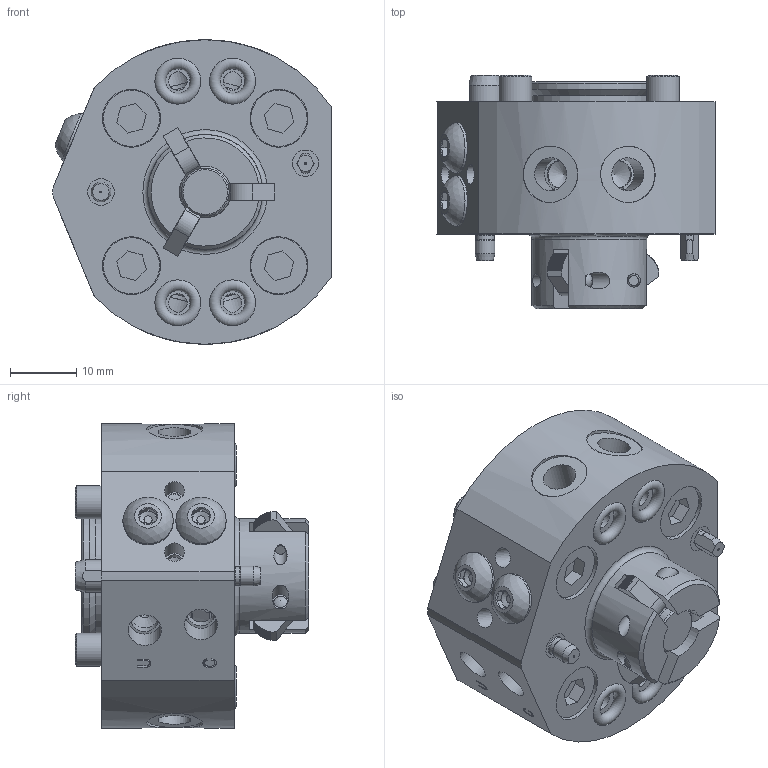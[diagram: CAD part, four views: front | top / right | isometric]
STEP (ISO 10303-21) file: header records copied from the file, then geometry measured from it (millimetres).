
FILE_DESCRIPTION (( 'STEP AP214' ), '1' );
FILE_NAME ('1507-D63A REV00.STEP', '2019-06-28T18:20:00', ( '' ), ( '' ), 'SwSTEP 2.0', 'SolidWorks 2019', '' );
FILE_SCHEMA (( 'AUTOMOTIVE_DESIGN' ));
Length unit declared in the file: millimetre
Products named in the file (18): 1507-C65N; 1507-D64N; 97501-P1084; 1800542P; 1507-D63A REV00; 1600-P84A_ER31.5; 1004-P68N; 1507-P77N; 49989_Default<As Machined>; 91500-P1032_Unstretched; 1502-P94N; 47003_92095A189; 96504-P1019; 1507-C66N; 1004-P67N; 49539; 0104-C18N; 89501-P1096
Assembly tree (30 placements, depth 3):
  1507-D63A REV00
    1507-D64N
    1507-C65N
    1507-C66N
    1502-P94N
    1507-P77N
    96504-P1019  x4
    0104-C18N  x3
    1004-P67N
    1004-P68N
    91500-P1032_Unstretched  x2
    49989_Default<As Machined>  x3
    89501-P1096
    97501-P1084  x2
    47003_92095A189  x2
    1600-P84A_ER31.5
      49539  x4
      1800542P
Bounding box: 42 x 35.28 x 46 mm (x, y, z)
Volume: 30667.4 mm3; surface area: 21234.7 mm2
Topology: 29 solids, 29 shells, 674 faces, 1609 edges, 1034 vertices
Faces by surface type: plane 331, cylinder 175, cone 108, torus 38, bspline 20, sphere 2
Full cylindrical faces by diameter (mm): 1.5 x2, 2 x3, 2.002 x6, 2.014 x3, 2.5 x7, 2.572 x2, 2.6 x1, 2.8 x5, 3 x5, 3.075 x2, 3.3 x2, 3.441 x16, 4 x18, 4.2 x2, 5 x11, 5.5 x4, 6.35 x2, 6.96 x4, 7.23 x1, 7.26 x4, 7.6 x2, 7.72 x1, 7.81 x2, 8.5 x8, 8.75 x4, 11.03 x1, 12 x1, 12.5 x1, 15.68 x1, 16.5 x2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
Entity records: 16603 total; most frequent: CARTESIAN_POINT 6831, DIRECTION 1849, ORIENTED_EDGE 1518, AXIS2_PLACEMENT_3D 773, EDGE_CURVE 759, EDGE_LOOP 726, VERTEX_POINT 579, FACE_OUTER_BOUND 572
